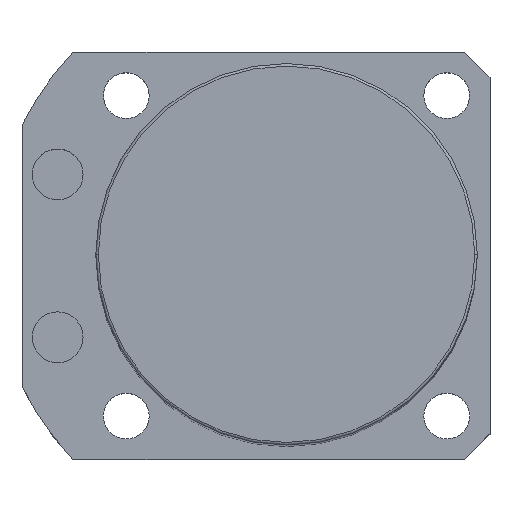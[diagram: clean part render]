
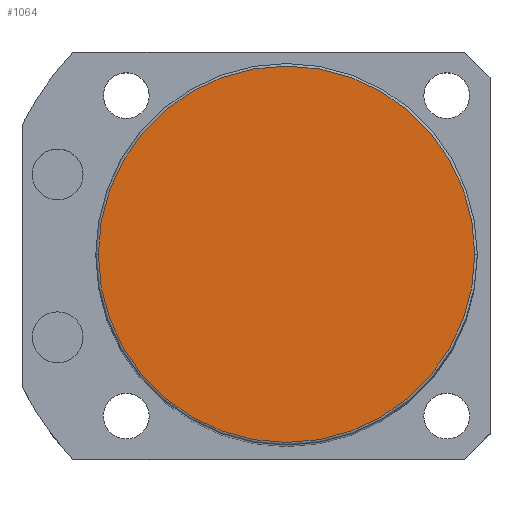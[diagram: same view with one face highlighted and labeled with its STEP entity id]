
A CAD part, top view. The second image highlights one B-rep face of the part: STEP entity #1064.
In plain terms, the highlighted planar face has unit normal (0, 0, 1).
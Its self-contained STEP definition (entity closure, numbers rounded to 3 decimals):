
#44 = VERTEX_POINT ( 'NONE', #1477 ) ;
#99 = PLANE ( 'NONE',  #579 ) ;
#109 = DIRECTION ( 'NONE',  ( 0., 0., 1. ) ) ;
#182 = DIRECTION ( 'NONE',  ( 1., 0., 0. ) ) ;
#487 = CIRCLE ( 'NONE', #896, 37. ) ;
#579 = AXIS2_PLACEMENT_3D ( 'NONE', #724, #109, #747 ) ;
#724 = CARTESIAN_POINT ( 'NONE',  ( 0., 0., 195.5 ) ) ;
#747 = DIRECTION ( 'NONE',  ( 1., 0., 0. ) ) ;
#896 = AXIS2_PLACEMENT_3D ( 'NONE', #1020, #1414, #182 ) ;
#1020 = CARTESIAN_POINT ( 'NONE',  ( 0., 0., 195.5 ) ) ;
#1064 = ADVANCED_FACE ( 'NONE', ( #2245 ), #99, .T. ) ;
#1202 = EDGE_CURVE ( 'NONE', #2165, #44, #487, .T. ) ;
#1203 = DIRECTION ( 'NONE',  ( 0., 0., 1. ) ) ;
#1224 = EDGE_LOOP ( 'NONE', ( #1335, #1337 ) ) ;
#1335 = ORIENTED_EDGE ( 'NONE', *, *, #1934, .T. ) ;
#1337 = ORIENTED_EDGE ( 'NONE', *, *, #1202, .T. ) ;
#1414 = DIRECTION ( 'NONE',  ( 0., 0., 1. ) ) ;
#1477 = CARTESIAN_POINT ( 'NONE',  ( 37., 0., 195.5 ) ) ;
#1495 = CARTESIAN_POINT ( 'NONE',  ( -37., 0., 195.5 ) ) ;
#1715 = CIRCLE ( 'NONE', #1968, 37. ) ;
#1768 = CARTESIAN_POINT ( 'NONE',  ( 0., 0., 195.5 ) ) ;
#1934 = EDGE_CURVE ( 'NONE', #44, #2165, #1715, .T. ) ;
#1968 = AXIS2_PLACEMENT_3D ( 'NONE', #1768, #1203, #2182 ) ;
#2165 = VERTEX_POINT ( 'NONE', #1495 ) ;
#2182 = DIRECTION ( 'NONE',  ( 1., 0., 0. ) ) ;
#2245 = FACE_OUTER_BOUND ( 'NONE', #1224, .T. ) ;
